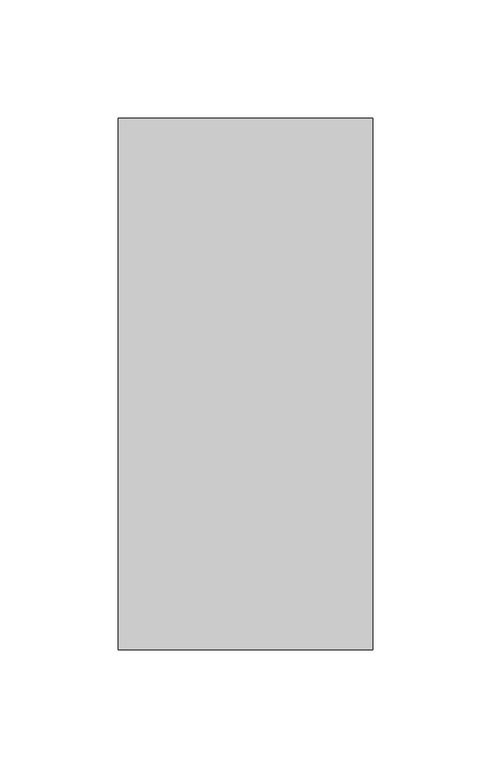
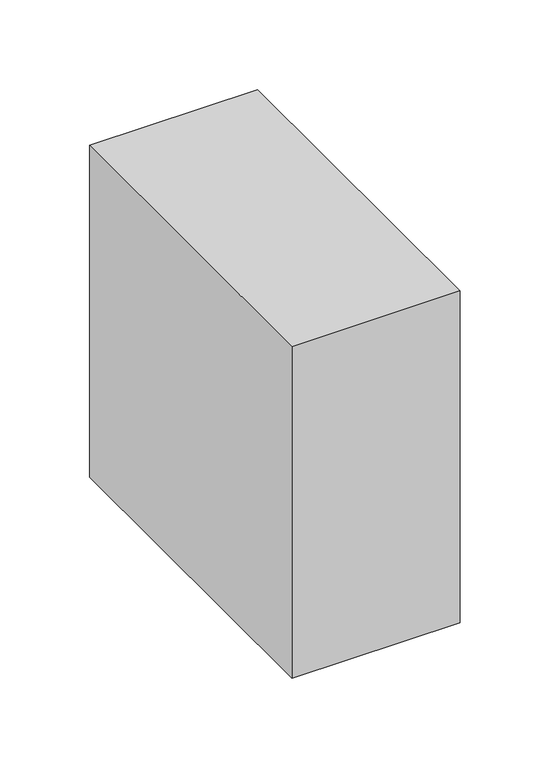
"""IFC4 building model written with IfcOpenShell, lengths in millimetres: duct fitting geometry, M_Encaixe de duto retangular : Padrão."""

from ifc_helpers import new_model, si_unit, frame, origin, place, context, project, spatial, polyline, outline, extrude, source, transform, mapped, element, save


def duct_fitting_4c01d837(model_context):
    return source(origin(), model_context, "Body", "SweptSolid", [
        extrude(outline(polyline([(-6.096, -112.5), (-6.096, 112.5), (101.6, 112.5), (101.6, -112.5), (-6.096, -112.5)])), frame((0.0, 0.0, -112.5), z_axis=(0.0, 0.0, 1.0), x_axis=(1.0, 0.0, 0.0)), (0.0, 0.0, 1.0), 225.0),
    ])


if __name__ == "__main__":
    model = new_model("IFC4")
    model_context = context("Model", 3, world=origin())
    ifc_project = project(units=[si_unit("LENGTHUNIT", "METRE", prefix="MILLI")], contexts=[model_context])
    site = spatial("IfcSite", under=ifc_project)
    building = spatial("IfcBuilding", under=site)
    placement = place(None, origin())
    duct_fitting_shape = duct_fitting_4c01d837(model_context)
    element("IfcDuctFitting", 1, ObjectType="M_Encaixe de duto retangular : Padrão", at=placement, inside=building, context=model_context, shape_type="MappedRepresentation", body=[
        mapped(duct_fitting_shape, transform((0.0, 0.0, 0.0), x_axis=(1.0, 0.0, 0.0), y_axis=(0.0, 1.0, 0.0), z_axis=(0.0, 0.0, 1.0))),
    ])
    save(model, "model.ifc")
